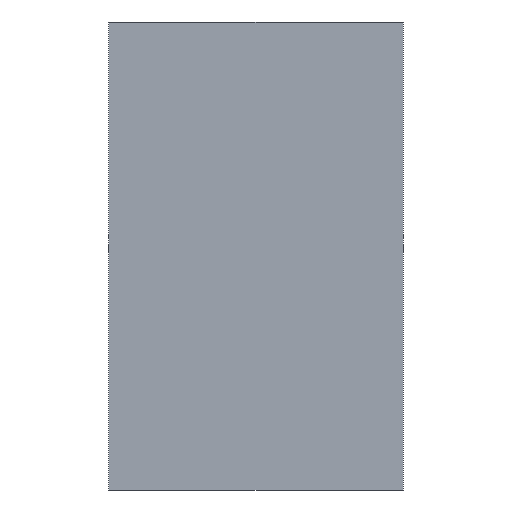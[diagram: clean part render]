
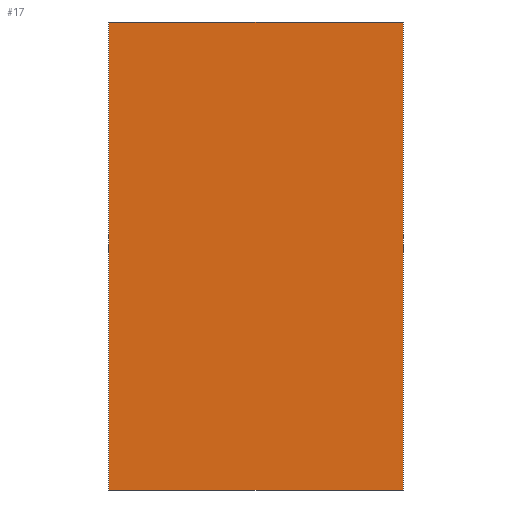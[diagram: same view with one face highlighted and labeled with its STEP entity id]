
A CAD part, left-side view. The second image highlights one B-rep face of the part: STEP entity #17.
In plain terms, the highlighted planar face has unit normal (-1, 0, 0).
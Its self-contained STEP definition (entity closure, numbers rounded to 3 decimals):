
#17 = ADVANCED_FACE('',(#18),#52,.F.);
#18 = FACE_BOUND('',#19,.F.);
#19 = EDGE_LOOP('',(#20,#30,#38,#46));
#20 = ORIENTED_EDGE('',*,*,#21,.F.);
#21 = EDGE_CURVE('',#22,#24,#26,.T.);
#22 = VERTEX_POINT('',#23);
#23 = CARTESIAN_POINT('',(-3.,12.,22.));
#24 = VERTEX_POINT('',#25);
#25 = CARTESIAN_POINT('',(-3.,12.,92.));
#26 = LINE('',#27,#28);
#27 = CARTESIAN_POINT('',(-3.,12.,22.));
#28 = VECTOR('',#29,1.);
#29 = DIRECTION('',(0.,0.,1.));
#30 = ORIENTED_EDGE('',*,*,#31,.T.);
#31 = EDGE_CURVE('',#22,#32,#34,.T.);
#32 = VERTEX_POINT('',#33);
#33 = CARTESIAN_POINT('',(-3.,56.,22.));
#34 = LINE('',#35,#36);
#35 = CARTESIAN_POINT('',(-3.,12.,22.));
#36 = VECTOR('',#37,1.);
#37 = DIRECTION('',(0.,1.,0.));
#38 = ORIENTED_EDGE('',*,*,#39,.T.);
#39 = EDGE_CURVE('',#32,#40,#42,.T.);
#40 = VERTEX_POINT('',#41);
#41 = CARTESIAN_POINT('',(-3.,56.,92.));
#42 = LINE('',#43,#44);
#43 = CARTESIAN_POINT('',(-3.,56.,22.));
#44 = VECTOR('',#45,1.);
#45 = DIRECTION('',(0.,0.,1.));
#46 = ORIENTED_EDGE('',*,*,#47,.F.);
#47 = EDGE_CURVE('',#24,#40,#48,.T.);
#48 = LINE('',#49,#50);
#49 = CARTESIAN_POINT('',(-3.,12.,92.));
#50 = VECTOR('',#51,1.);
#51 = DIRECTION('',(0.,1.,0.));
#52 = PLANE('',#53);
#53 = AXIS2_PLACEMENT_3D('',#54,#55,#56);
#54 = CARTESIAN_POINT('',(-3.,12.,22.));
#55 = DIRECTION('',(1.,0.,0.));
#56 = DIRECTION('',(0.,0.,1.));
